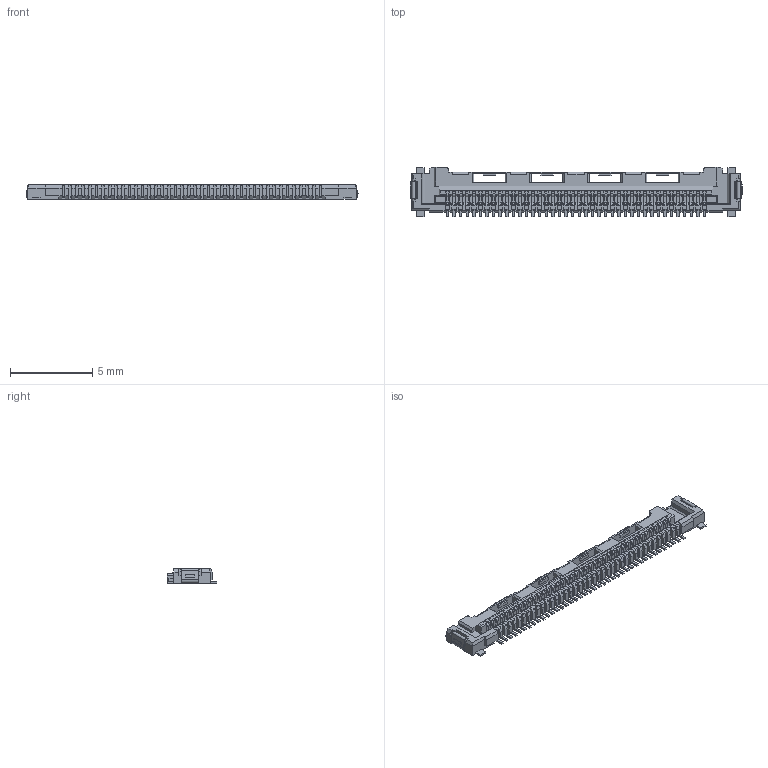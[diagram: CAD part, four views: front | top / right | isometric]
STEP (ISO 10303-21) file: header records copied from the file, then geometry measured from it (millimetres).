
FILE_DESCRIPTION(('CoCreate Modeling STEP Export'),'2;1');
FILE_NAME('P39910_USLS00-40.stp','2017-12-06T10:31:47',(''),(''),'CoCreate Modeling STEP processor for AP214 (Solid Model)','CoCreate Modeling 17.0B 09-Oct-2010 (C) Parametric Technology GmbH','');
FILE_SCHEMA(('AUTOMOTIVE_DESIGN { 1 0 10303 214 1 1 1 1 }'));
Products named in the file (2): USLS00-40
Assembly tree (1 placements, depth 2):
  USLS00-40
    USLS00-40
Bounding box: 20.16 x 3 x 0.88 mm (x, y, z)
Volume: 25 mm3; surface area: 214.3 mm2
Topology: 1 solids, 1 shells, 3301 faces, 9657 edges, 6296 vertices
Faces by surface type: plane 3046, cylinder 255
Entity records: 107382 total; most frequent: ORIENTED_EDGE 19314, CARTESIAN_POINT 19256, DIRECTION 16781, EDGE_CURVE 9657, VECTOR 9139, LINE 9139, VERTEX_POINT 6296, AXIS2_PLACEMENT_3D 3821
